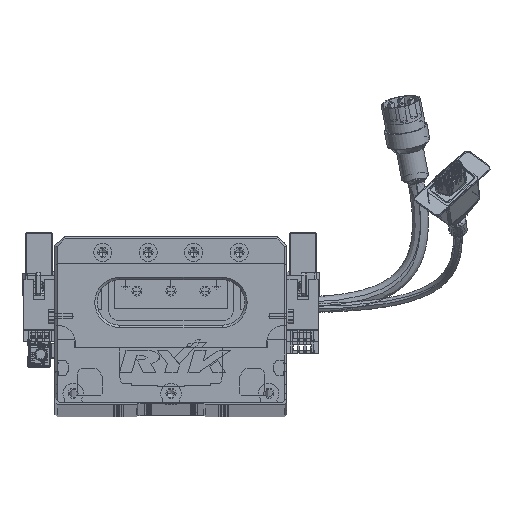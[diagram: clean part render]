
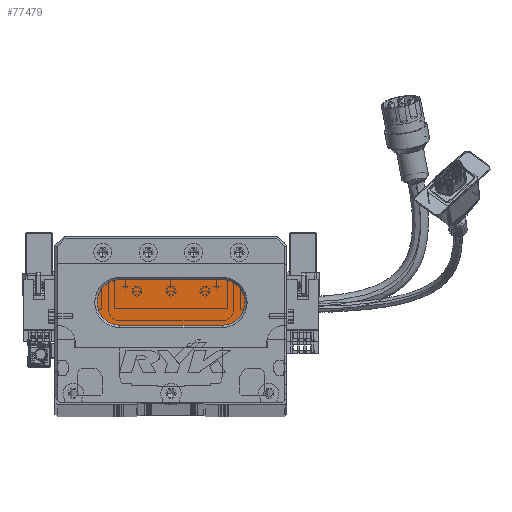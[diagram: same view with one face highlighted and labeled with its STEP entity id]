
A CAD part, top view. The second image highlights one B-rep face of the part: STEP entity #77479.
In plain terms, the highlighted planar face has unit normal (0, 0, 1) as drawn and (0, 0, -1) by its records, which use the part's own axes.
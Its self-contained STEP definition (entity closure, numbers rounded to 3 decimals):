
#754 = CIRCLE ( 'NONE', #57140, 10. ) ;
#795 = VECTOR ( 'NONE', #45490, 1000. ) ;
#821 = EDGE_CURVE ( 'NONE', #84642, #24994, #7437, .T. ) ;
#3534 = VECTOR ( 'NONE', #81065, 1000. ) ;
#6723 = PLANE ( 'NONE',  #10827 ) ;
#7437 = CIRCLE ( 'NONE', #22461, 10. ) ;
#7592 = CARTESIAN_POINT ( 'NONE',  ( 73.5, 44., 13. ) ) ;
#8988 = ORIENTED_EDGE ( 'NONE', *, *, #79615, .T. ) ;
#10660 = ORIENTED_EDGE ( 'NONE', *, *, #821, .T. ) ;
#10827 = AXIS2_PLACEMENT_3D ( 'NONE', #62607, #42368, #76731 ) ;
#19238 = ORIENTED_EDGE ( 'NONE', *, *, #33629, .T. ) ;
#22461 = AXIS2_PLACEMENT_3D ( 'NONE', #73300, #87956, #23883 ) ;
#23119 = DIRECTION ( 'NONE',  ( -1., 0., 0. ) ) ;
#23883 = DIRECTION ( 'NONE',  ( -1., 0., 0. ) ) ;
#24136 = EDGE_CURVE ( 'NONE', #88948, #84642, #42026, .T. ) ;
#24994 = VERTEX_POINT ( 'NONE', #55794 ) ;
#26145 = VERTEX_POINT ( 'NONE', #68278 ) ;
#27116 = CARTESIAN_POINT ( 'NONE',  ( 28.5, 34., 13. ) ) ;
#29870 = CARTESIAN_POINT ( 'NONE',  ( 28.5, 44., 13. ) ) ;
#31679 = CARTESIAN_POINT ( 'NONE',  ( 73.5, 34., 13. ) ) ;
#33629 = EDGE_CURVE ( 'NONE', #26145, #87716, #87458, .T. ) ;
#39892 = CARTESIAN_POINT ( 'NONE',  ( 73.5, 54., 13. ) ) ;
#42026 = LINE ( 'NONE', #31679, #3534 ) ;
#42368 = DIRECTION ( 'NONE',  ( 0., 0., -1. ) ) ;
#45490 = DIRECTION ( 'NONE',  ( 1., 0., 0. ) ) ;
#46008 = ORIENTED_EDGE ( 'NONE', *, *, #24136, .T. ) ;
#53340 = AXIS2_PLACEMENT_3D ( 'NONE', #7592, #70233, #56760 ) ;
#55794 = CARTESIAN_POINT ( 'NONE',  ( 18.5, 44., 13. ) ) ;
#56760 = DIRECTION ( 'NONE',  ( -1., 0., 0. ) ) ;
#57140 = AXIS2_PLACEMENT_3D ( 'NONE', #29870, #85990, #23119 ) ;
#59498 = EDGE_CURVE ( 'NONE', #24994, #26145, #754, .T. ) ;
#59616 = ORIENTED_EDGE ( 'NONE', *, *, #59498, .T. ) ;
#62607 = CARTESIAN_POINT ( 'NONE',  ( 73.5, 44., 13. ) ) ;
#66337 = CARTESIAN_POINT ( 'NONE',  ( 73.5, 54., 13. ) ) ;
#68278 = CARTESIAN_POINT ( 'NONE',  ( 28.5, 54., 13. ) ) ;
#70233 = DIRECTION ( 'NONE',  ( 0., 0., -1. ) ) ;
#70834 = EDGE_LOOP ( 'NONE', ( #8988, #46008, #10660, #59616, #19238 ) ) ;
#73300 = CARTESIAN_POINT ( 'NONE',  ( 28.5, 44., 13. ) ) ;
#76731 = DIRECTION ( 'NONE',  ( -1., 0., 0. ) ) ;
#77070 = CARTESIAN_POINT ( 'NONE',  ( 73.5, 34., 13. ) ) ;
#77479 = ADVANCED_FACE ( 'NONE', ( #81413 ), #6723, .T. ) ;
#79615 = EDGE_CURVE ( 'NONE', #87716, #88948, #88810, .T. ) ;
#81065 = DIRECTION ( 'NONE',  ( -1., 0., 0. ) ) ;
#81413 = FACE_OUTER_BOUND ( 'NONE', #70834, .T. ) ;
#84642 = VERTEX_POINT ( 'NONE', #27116 ) ;
#85990 = DIRECTION ( 'NONE',  ( 0., 0., -1. ) ) ;
#87458 = LINE ( 'NONE', #66337, #795 ) ;
#87716 = VERTEX_POINT ( 'NONE', #39892 ) ;
#87956 = DIRECTION ( 'NONE',  ( 0., 0., -1. ) ) ;
#88810 = CIRCLE ( 'NONE', #53340, 10. ) ;
#88948 = VERTEX_POINT ( 'NONE', #77070 ) ;
